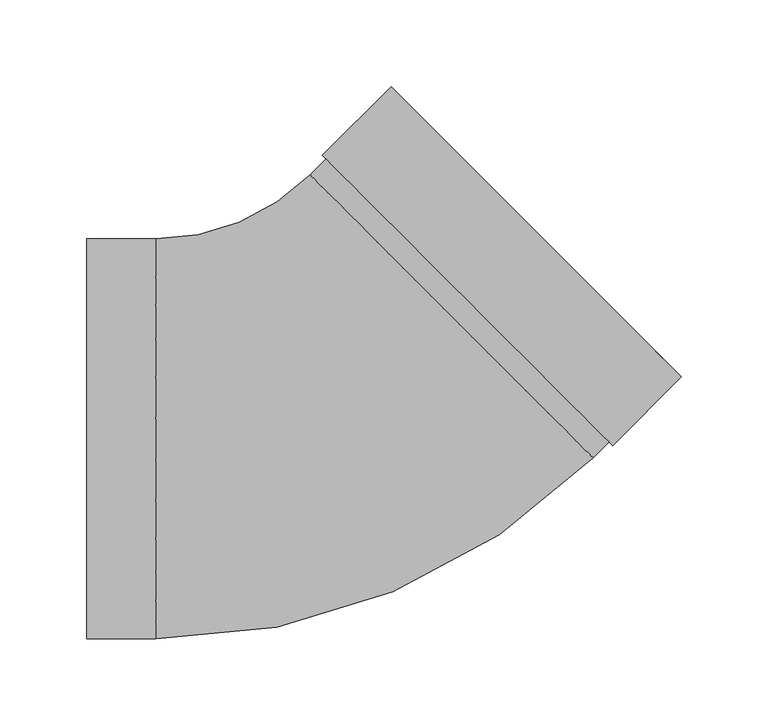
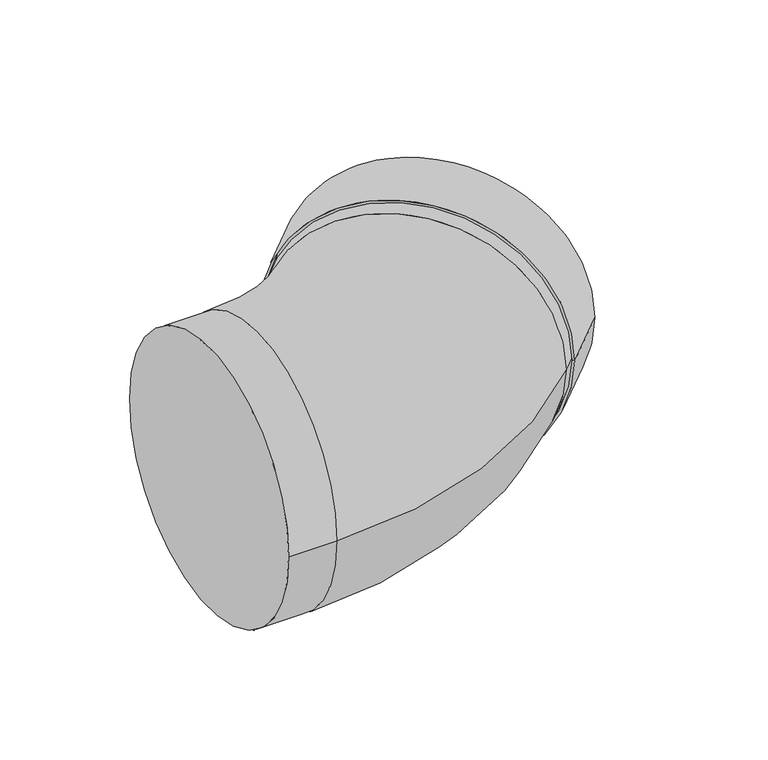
"""IFC4 building model written with IfcOpenShell, lengths in millimetres: duct fitting geometry, NLRS_57_DUF_UN_bend EPS_M&G : ø125 - ø200."""

from ifc_helpers import new_model, si_unit, point, frame, origin, place, context, project, spatial, polyline, circle_curve, ellipse_curve, trimmed, source, transform, mapped, element, save
from ifc_brep_helpers import plane_surface, cylinder_surface, revolved_surface, advanced_brep


def duct_fitting_93765f70(model_context):
    return source(origin(), model_context, "Body", "AdvancedBrep", [
        advanced_brep(
        [(163.6952198, -3.8890873, 0.0), (-3.8890873, 163.6952198, 0.0), (35.7088924, 203.2931996, 0.0), (203.2931996, 35.7088924, 0.0), (162.2810063, -2.4748737, 0.0), (-2.4748737, 162.2810063, 0.0), (181.3728894, 16.6170094, 0.0), (16.6170094, 181.3728894, 0.0), (179.9586758, 18.0312229, 0.0), (18.0312229, 179.9586758, 0.0), (182.7871029, 18.0312229, 0.0), (18.0312229, 182.7871029, 0.0), (19.4454365, 181.3728894, 0.0), (181.3728894, 19.4454365, 0.0), (201.878986, 37.123106, 0.0), (37.123106, 201.878986, 0.0)],
        [
            (0, 1, circle_curve(frame((79.9030663, 79.9030663, 0.0), z_axis=(0.7071067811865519, 0.7071067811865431, 0.0), x_axis=(-0.7071067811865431, 0.7071067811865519, 0.0)), 118.5)),
            (1, 2),
            (2, 3, circle_curve(frame((119.501046, 119.501046, 0.0), z_axis=(-0.7071067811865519, -0.7071067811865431, 0.0), x_axis=(-0.7071067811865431, 0.7071067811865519, 0.0)), 118.5)),
            (3, 0),
            (1, 0, circle_curve(frame((79.9030663, 79.9030663, 0.0), z_axis=(0.7071067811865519, 0.7071067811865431, 0.0), x_axis=(-0.7071067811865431, 0.7071067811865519, 0.0)), 118.5)),
            (3, 2, circle_curve(frame((119.501046, 119.501046, 0.0), z_axis=(-0.7071067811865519, -0.7071067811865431, 0.0), x_axis=(-0.7071067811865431, 0.7071067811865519, 0.0)), 118.5)),
            (4, 5, circle_curve(frame((79.9030663, 79.9030663, 0.0), z_axis=(0.7071067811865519, 0.7071067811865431, 0.0), x_axis=(-0.7071067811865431, 0.7071067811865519, 0.0)), 116.5)),
            (5, 1),
            (0, 4),
            (5, 4, circle_curve(frame((79.9030663, 79.9030663, 0.0), z_axis=(0.7071067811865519, 0.7071067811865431, 0.0), x_axis=(-0.7071067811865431, 0.7071067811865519, 0.0)), 116.5)),
            (6, 7, circle_curve(frame((98.9949494, 98.9949494, 0.0), z_axis=(0.7071067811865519, 0.7071067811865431, 0.0), x_axis=(-0.7071067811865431, 0.7071067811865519, 0.0)), 116.5)),
            (7, 5),
            (4, 6),
            (7, 6, circle_curve(frame((98.9949494, 98.9949494, 0.0), z_axis=(0.7071067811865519, 0.7071067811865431, 0.0), x_axis=(-0.7071067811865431, 0.7071067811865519, 0.0)), 116.5)),
            (8, 9, circle_curve(frame((98.9949494, 98.9949494, 0.0), z_axis=(0.7071067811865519, 0.7071067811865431, 0.0), x_axis=(-0.7071067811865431, 0.7071067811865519, 0.0)), 114.5)),
            (9, 7),
            (6, 8),
            (9, 8, circle_curve(frame((98.9949494, 98.9949494, 0.0), z_axis=(0.7071067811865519, 0.7071067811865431, 0.0), x_axis=(-0.7071067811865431, 0.7071067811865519, 0.0)), 114.5)),
            (10, 11, circle_curve(frame((100.4091629, 100.4091629, 0.0), z_axis=(0.7071067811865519, 0.7071067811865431, 0.0), x_axis=(-0.7071067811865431, 0.7071067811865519, 0.0)), 116.5)),
            (11, 12),
            (12, 13, circle_curve(frame((100.4091629, 100.4091629, 0.0), z_axis=(-0.7071067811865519, -0.7071067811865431, 0.0), x_axis=(-0.7071067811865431, 0.7071067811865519, 0.0)), 114.5)),
            (13, 10),
            (11, 10, circle_curve(frame((100.4091629, 100.4091629, 0.0), z_axis=(0.7071067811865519, 0.7071067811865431, 0.0), x_axis=(-0.7071067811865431, 0.7071067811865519, 0.0)), 116.5)),
            (13, 12, circle_curve(frame((100.4091629, 100.4091629, 0.0), z_axis=(-0.7071067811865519, -0.7071067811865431, 0.0), x_axis=(-0.7071067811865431, 0.7071067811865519, 0.0)), 114.5)),
            (14, 15, circle_curve(frame((119.501046, 119.501046, 0.0), z_axis=(0.7071067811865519, 0.7071067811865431, 0.0), x_axis=(-0.7071067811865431, 0.7071067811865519, 0.0)), 116.5)),
            (15, 11),
            (10, 14),
            (15, 14, circle_curve(frame((119.501046, 119.501046, 0.0), z_axis=(0.7071067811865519, 0.7071067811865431, 0.0), x_axis=(-0.7071067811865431, 0.7071067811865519, 0.0)), 116.5)),
            (2, 15),
            (14, 3),
            (12, 9),
            (8, 13),
        ],
        [
            cylinder_surface(frame((1496.5915024, 1496.5915024, 0.0), z_axis=(-0.7071067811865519, -0.7071067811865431, 0.0), x_axis=(-0.7071067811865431, 0.7071067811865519, 0.0)), 118.5),
            plane_surface(frame((79.9030663, 79.9030663, 0.0), z_axis=(-0.7071067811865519, -0.7071067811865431, 0.0), x_axis=(-0.7071067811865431, 0.7071067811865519, 0.0))),
            revolved_surface(polyline([(-2.47487370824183, 162.28100630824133, 0.0), (16.61700939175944, 181.37288940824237, 0.0)]), (1496.5915024, 1496.5915024, 0.0), (-0.7071067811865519, -0.7071067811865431, 0.0)),
            plane_surface(frame((98.9949494, 98.9949494, 0.0), z_axis=(-0.7071067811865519, -0.7071067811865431, 0.0), x_axis=(-0.7071067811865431, 0.7071067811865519, 0.0))),
            plane_surface(frame((100.4091629, 100.4091629, 0.0), z_axis=(0.7071067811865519, 0.7071067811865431, 0.0), x_axis=(-0.7071067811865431, 0.7071067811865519, 0.0))),
            revolved_surface(polyline([(18.03122289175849, 182.78710290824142, 0.0), (37.12310599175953, 201.87898600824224, 0.0)]), (1496.5915024, 1496.5915024, 0.0), (-0.7071067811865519, -0.7071067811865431, 0.0)),
            plane_surface(frame((119.501046, 119.501046, 0.0), z_axis=(0.7071067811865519, 0.7071067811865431, 0.0), x_axis=(-0.7071067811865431, 0.7071067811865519, 0.0))),
            revolved_surface(polyline([(18.03122290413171, 179.95867579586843, 0.0), (19.44543650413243, 181.37288939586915, 0.0)]), (1496.5915024, 1496.5915024, 0.0), (-0.7071067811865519, -0.7071067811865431, 0.0)),
        ],
        [
            (0, [[1, 2, 3, 4]]),
            (0, [[5, -4, 6, -2]]),
            (1, [[7, 8, -1, 9]]),
            (1, [[10, -9, -5, -8]]),
            (2, [[11, 12, -7, 13]]),
            (2, [[14, -13, -10, -12]]),
            (3, [[15, 16, -11, 17]]),
            (3, [[18, -17, -14, -16]]),
            (4, [[19, 20, 21, 22]]),
            (4, [[23, -22, 24, -20]]),
            (5, [[25, 26, -19, 27]]),
            (5, [[28, -27, -23, -26]]),
            (6, [[-3, 29, -25, 30]]),
            (6, [[-6, -30, -28, -29]]),
            (7, [[-21, 31, -15, 32]]),
            (7, [[-24, -32, -18, -31]]),
        ],
    ),
        advanced_brep(
        [(-140.0, -115.5, 0.0), (-140.0, 115.5, 0.0), (-100.0, -115.5, 0.0), (-100.0, 115.5, 0.0), (-10.9601551, 152.3815113, 0.0), (152.3815113, -10.9601551, 0.0), (180.6657826, 17.3241161, 0.0), (17.3241161, 180.6657826, 0.0)],
        [
            (0, 1, circle_curve(frame((-140.0, 0.0, 0.0), z_axis=(-1.0, 0.0, 0.0), x_axis=(0.0, 1.0, 0.0)), 115.5)),
            (1, 0, circle_curve(frame((-140.0, 0.0, 0.0), z_axis=(-1.0, 0.0, 0.0), x_axis=(0.0, 1.0, 0.0)), 115.5)),
            (0, 2),
            (2, 3, circle_curve(frame((-100.0, 0.0, 0.0), z_axis=(-1.0, 0.0, 0.0), x_axis=(0.0, 1.0, 0.0)), 115.5)),
            (3, 1),
            (3, 2, circle_curve(frame((-100.0, 0.0, 0.0), z_axis=(-1.0, 0.0, 0.0), x_axis=(0.0, 1.0, 0.0)), 115.5)),
            (4, 3, circle_curve(frame((-100.0, 241.4213562, 0.0), z_axis=(0.0, 0.0, -1.0), x_axis=(0.0, -1.0, 0.0)), 125.9213562)),
            (2, 5, circle_curve(frame((-100.0, 241.4213562, 0.0), z_axis=(0.0, 0.0, 1.0), x_axis=(0.0, -1.0, 0.0)), 356.9213562)),
            (5, 4, circle_curve(frame((70.7106781, 70.7106781, 0.0), z_axis=(-0.7071067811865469, -0.7071067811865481, 0.0), x_axis=(-0.7071067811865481, 0.7071067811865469, 0.0)), 115.5)),
            (4, 5, circle_curve(frame((70.7106781, 70.7106781, 0.0), z_axis=(-0.7071067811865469, -0.7071067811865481, 0.0), x_axis=(-0.7071067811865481, 0.7071067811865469, 0.0)), 115.5)),
            (6, 7, circle_curve(frame((98.9949494, 98.9949494, 0.0), z_axis=(0.7071067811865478, 0.7071067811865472, 0.0), x_axis=(-0.7071067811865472, 0.7071067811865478, 0.0)), 115.5)),
            (7, 6, circle_curve(frame((98.9949494, 98.9949494, 0.0), z_axis=(0.7071067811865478, 0.7071067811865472, 0.0), x_axis=(-0.7071067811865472, 0.7071067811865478, 0.0)), 115.5)),
            (5, 6),
            (7, 4),
        ],
        [
            plane_surface(frame((-140.0, 0.0, 0.0), z_axis=(-1.0, 0.0, 0.0), x_axis=(0.0, 0.0, 1.0))),
            cylinder_surface(frame((-140.0, 0.0, 0.0), z_axis=(-1.0, 0.0, 0.0), x_axis=(0.0, 1.0, 0.0)), 115.5),
            revolved_surface(trimmed(ellipse_curve(frame((-100.0, 0.0, 0.0), z_axis=(-1.0, 0.0, 0.0), x_axis=(0.0, 1.0, 0.0)), 115.5, 115.5), [point((-100.0, -115.5, 0.0))], [point((-100.0, 115.5, 0.0))], True, "CARTESIAN"), (-100.0, 241.4213562, 0.0), (0.0, 0.0, 1.0)),
            revolved_surface(trimmed(ellipse_curve(frame((-100.0, 0.0, 0.0), z_axis=(-1.0, 0.0, 0.0), x_axis=(0.0, 1.0, 0.0)), 115.5, 115.5), [point((-100.0, 115.5, 0.0))], [point((-100.0, -115.5, 0.0))], True, "CARTESIAN"), (-100.0, 241.4213562, 0.0), (0.0, 0.0, 1.0)),
            plane_surface(frame((98.9949494, 98.9949494, 0.0), z_axis=(0.7071067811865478, 0.7071067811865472, 0.0), x_axis=(0.0, 0.0, 1.0))),
            cylinder_surface(frame((70.7106781, 70.7106781, 0.0), z_axis=(-0.7071067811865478, -0.7071067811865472, 0.0), x_axis=(-0.7071067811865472, 0.7071067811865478, 0.0)), 115.5),
        ],
        [
            (0, [[1, 2]]),
            (1, [[-1, 3, 4, 5]]),
            (1, [[-2, -5, 6, -3]]),
            (2, [[7, -4, 8, 9]]),
            (3, [[-8, -6, -7, 10]]),
            (4, [[11, 12]]),
            (5, [[-9, 13, -12, 14]]),
            (5, [[-10, -14, -11, -13]]),
        ],
    ),
    ])


if __name__ == "__main__":
    model = new_model("IFC4")
    model_context = context("Model", 3, world=origin())
    ifc_project = project(units=[si_unit("LENGTHUNIT", "METRE", prefix="MILLI")], contexts=[model_context])
    site = spatial("IfcSite", under=ifc_project)
    building = spatial("IfcBuilding", under=site)
    placement = place(None, origin())
    duct_fitting_shape = duct_fitting_93765f70(model_context)
    element("IfcDuctFitting", 1, ObjectType="NLRS_57_DUF_UN_bend EPS_M&G : ø125 - ø200", at=placement, inside=building, context=model_context, shape_type="MappedRepresentation", body=[
        mapped(duct_fitting_shape, transform((0.0, 0.0, 0.0), x_axis=(1.0, 0.0, 0.0), y_axis=(0.0, 1.0, 0.0), z_axis=(0.0, 0.0, 1.0))),
    ])
    save(model, "model.ifc")
